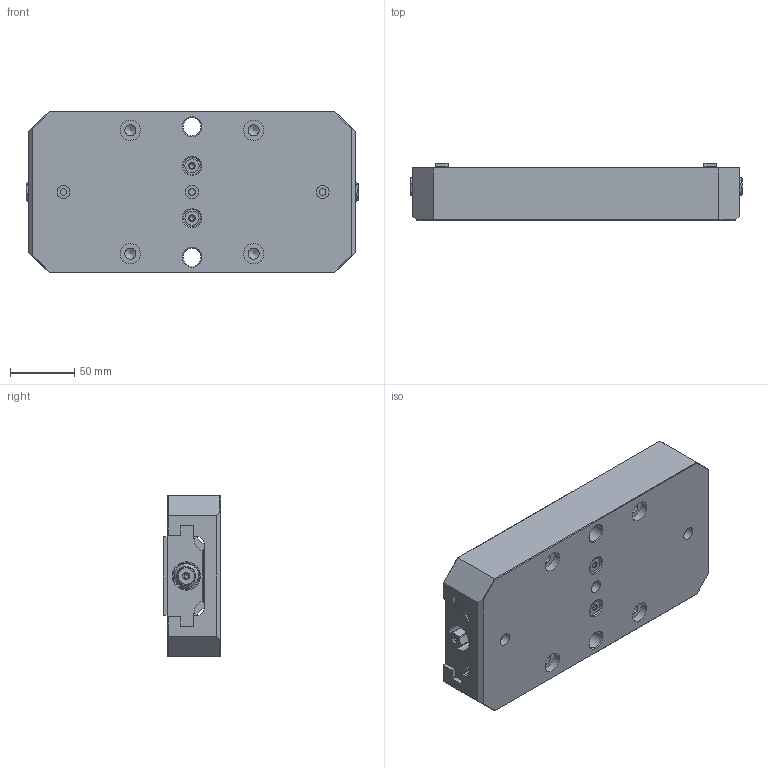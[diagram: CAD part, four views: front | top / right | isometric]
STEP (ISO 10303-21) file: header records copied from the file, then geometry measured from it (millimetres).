
FILE_DESCRIPTION (( 'STEP AP214' ), '1' );
FILE_NAME ('V510X-NJ_WEBSITE.STEP', '2025-08-11T11:42:29', ( '' ), ( '' ), 'SwSTEP 2.0', 'SolidWorks 2025', '' );
FILE_SCHEMA (( 'AUTOMOTIVE_DESIGN' ));
Length unit declared in the file: inch
Products named in the file (10): V562X-2_WEBSITE_V562X-2R OP2; HW.M6C_WEBSITE; V510X-NJ_WEBSITE; V510X-1_WEBSITE_V510X-1; M6X6MM.SHCS_WEBSITE_M6X6MM.SHCS; V5104M-4_WEBSITE; V562X-2_WEBSITE_V562X-2L OP2; SB5VX_WEBSITE; V562MX-3_WEBSITE_V562M-3; V56124-6_WEBSITE_V56124-6
Assembly tree (11 placements, depth 2):
  V510X-NJ_WEBSITE
    V510X-1_WEBSITE_V510X-1
    V562X-2_WEBSITE_V562X-2R OP2
    V562X-2_WEBSITE_V562X-2L OP2
    V562MX-3_WEBSITE_V562M-3
    V5104M-4_WEBSITE
    V56124-6_WEBSITE_V56124-6  x2
    HW.M6C_WEBSITE
    M6X6MM.SHCS_WEBSITE_M6X6MM.SHCS
    SB5VX_WEBSITE  x2
Bounding box: 258.32 x 44.39 x 125.73 mm (x, y, z)
Volume: 966404.7 mm3; surface area: 175822.5 mm2
Topology: 11 solids, 11 shells, 519 faces, 1325 edges, 869 vertices
Faces by surface type: plane 309, cylinder 120, cone 77, torus 8, bspline 5
Full cylindrical faces by diameter (mm): 3.454 x1, 4.039 x2, 5 x5, 5.131 x1, 6 x3, 6.015 x2, 6.4 x1, 6.8 x8, 7.112 x1, 7.925 x2, 7.95 x2, 8 x8, 8.5 x4, 10 x1, 10.013 x3, 10.033 x1, 10.5 x1, 11 x2, 13.487 x2, 13.894 x2, 16.015 x4, 16.256 x2, 17.462 x2, 18.542 x2, 19.05 x2, 19.558 x2, 20.637 x2, 22 x2, 22.289 x2, 22.352 x1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
Entity records: 15452 total; most frequent: CARTESIAN_POINT 2902, DIRECTION 2056, ORIENTED_EDGE 1876, EDGE_CURVE 938, AXIS2_PLACEMENT_3D 754, VERTEX_POINT 680, EDGE_LOOP 634, LINE 548
